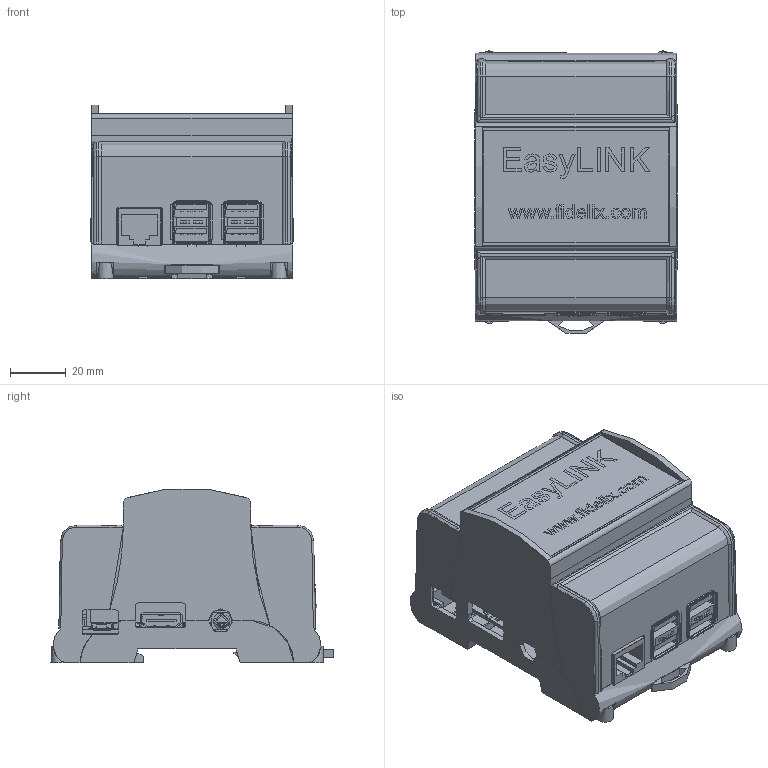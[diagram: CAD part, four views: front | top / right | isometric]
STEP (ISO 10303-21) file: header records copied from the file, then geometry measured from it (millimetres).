
FILE_DESCRIPTION(/* description */ (''),/* implementation_level */ '2;1');
FILE_NAME(/* name */ 'C:/Temp/STEP/EasyLINK_assembly.step',/* time_stamp */ '2020-04-03T13:36:17+03:00',/* author */ (''),/* organization */ (''),/* preprocessor_version */ 'ST-DEVELOPER v18',/* originating_system */ 'Autodesk Translation Framework v8.12.0.6',/* authorisation */ '');
FILE_SCHEMA (('AUTOMOTIVE_DESIGN { 1 0 10303 214 3 1 1 }'));
Products named in the file (1): EasyLINK_assembly
Bounding box: 72.32 x 100.89 x 62.15 mm (x, y, z)
Topology: 92 solids, 98 shells, 8164 faces, 22953 edges, 15226 vertices
Faces by surface type: plane 6268, cylinder 1373, bspline 407, sphere 42, cone 40, torus 34
Full cylindrical faces by diameter (mm): 0.195 x2, 0.4 x2, 1 x98, 1.016 x3, 1.025 x30, 1.15 x42, 1.2 x10, 1.4 x8, 1.5 x8, 2 x2, 2.013 x22, 2.2 x4, 2.5 x2, 2.518 x1, 2.8 x3, 3 x4, 3.2 x2, 4 x1, 4.4 x4, 5 x2, 6 x5
Entity records: 303431 total; most frequent: CARTESIAN_POINT 82277, ORIENTED_EDGE 45878, DIRECTION 41299, EDGE_CURVE 22950, LINE 18465, VECTOR 18465, VERTEX_POINT 15234, AXIS2_PLACEMENT_3D 11417
